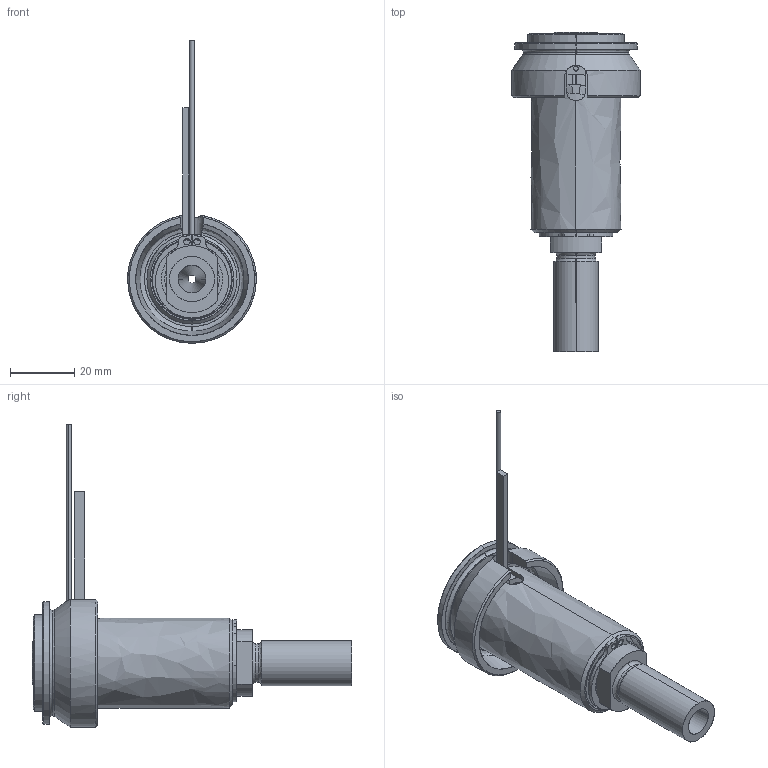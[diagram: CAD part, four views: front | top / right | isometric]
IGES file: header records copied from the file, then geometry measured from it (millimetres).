
Start section: SolidWorks IGES file using analytic representation for surfaces
Global section: file name: C:\Documents and Settings\ws-20\Desktop\TEMPORANEA\UGBE4001-M-A-P-5 [Ød-2.5 P-25 ØC-09].IGS; native system: SolidWorks 2012; preprocessor: SolidWorks 2012; author: ws-20; date: 120306.123237; units: millimetre
Bounding box: 40 x 99.25 x 94.15 mm (x, y, z)
Surface area: 25740.2 mm2 (no closed solid volume)
Topology: 0 solids, 0 shells, 107 faces, 1843 edges, 1843 vertices
Faces by surface type: revolution 60, bspline 47
